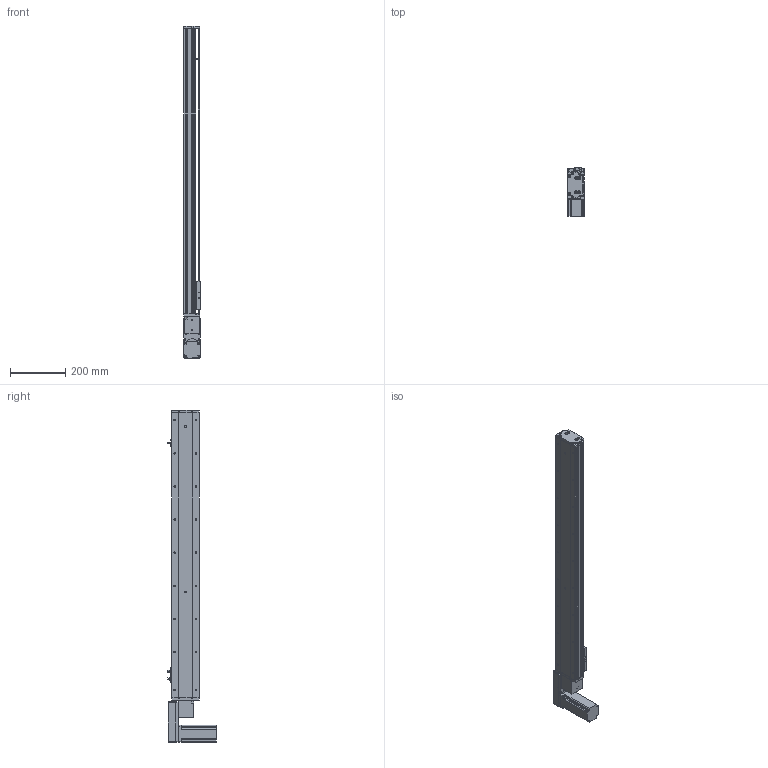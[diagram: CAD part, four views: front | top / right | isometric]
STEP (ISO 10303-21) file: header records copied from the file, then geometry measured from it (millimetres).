
FILE_DESCRIPTION (( 'STEP AP214' ), '1' );
FILE_NAME ('KSD100B-S850-MLB-CM.STEP', '2019-11-09T02:59:00', ( '微软用户' ), ( '微软中国' ), 'SwSTEP 2.0', 'SolidWorks 2014', '' );
FILE_SCHEMA (( 'AUTOMOTIVE_DESIGN' ));
Length unit declared in the file: millimetre
Products named in the file (12): KSD100B-S850-MLB-CM; 悵誘欶奻狟殏; 100宽马达安装板连板上下折丝杆同步带; 台达ECMA－C20604AS伺服电机; U倰嫖萇EEㄜSX672; 覜茼え100遵圉猾敕; 100宽防尘板850行程-同步带; 100宽马达安装板同步带左; 100宽同步带安装板半封闭; 100宽马达安装板同步带; 100遵傷啣肮祭湍; 100宽底板半封闭同步带850行程
Assembly tree (13 placements, depth 2):
  KSD100B-S850-MLB-CM
    100宽底板半封闭同步带850行程
    100遵傷啣肮祭湍
    100宽马达安装板同步带
    100宽同步带安装板半封闭
    100宽马达安装板同步带左
    100宽防尘板850行程-同步带
    覜茼え100遵圉猾敕
    U倰嫖萇EEㄜSX672  x3
    台达ECMA－C20604AS伺服电机
    100宽马达安装板连板上下折丝杆同步带
    悵誘欶奻狟殏
Bounding box: 61 x 174.7 x 1203 mm (x, y, z)
Volume: 2623046.4 mm3; surface area: 862104.3 mm2
Topology: 14 solids, 14 shells, 1427 faces, 4010 edges, 2557 vertices
Faces by surface type: cylinder 713, plane 587, cone 127
Entity records: 50423 total; most frequent: CARTESIAN_POINT 9824, DIRECTION 6942, ORIENTED_EDGE 6672, EDGE_CURVE 3336, AXIS2_PLACEMENT_3D 2533, VERTEX_POINT 2181, LINE 1876, VECTOR 1876
